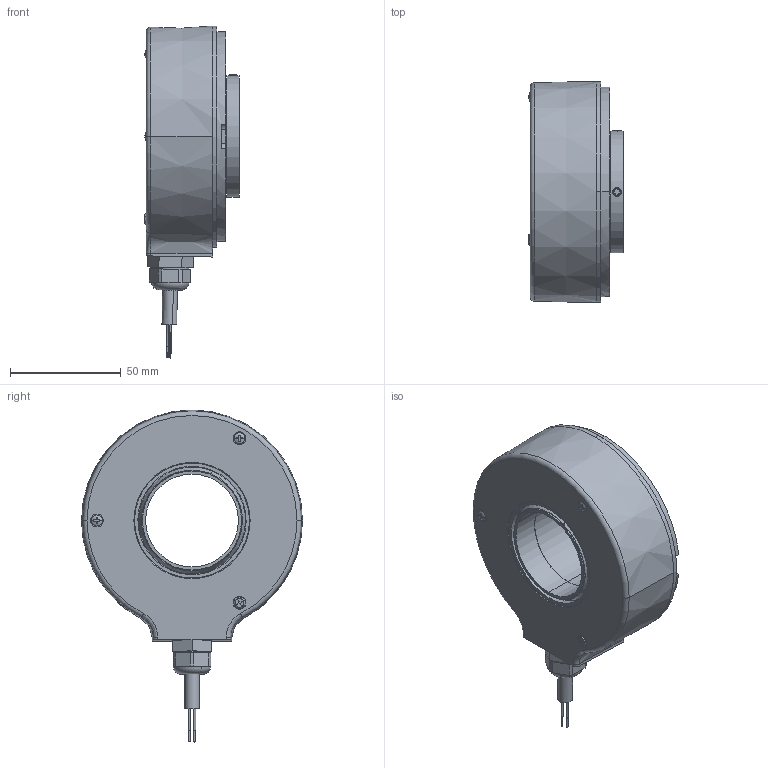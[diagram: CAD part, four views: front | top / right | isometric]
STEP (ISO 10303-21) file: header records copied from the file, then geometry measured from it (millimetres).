
FILE_DESCRIPTION (( 'STEP AP214' ), '1' );
FILE_NAME ('A020.11X1.XXXX.STEP', '2009-05-28T08:02:23', ( 'admin' ), ( 'Fritz Kübler GmbH' ), 'SwSTEP 2.0', 'SolidWorks 2009', '' );
FILE_SCHEMA (( 'AUTOMOTIVE_DESIGN' ));
Length unit declared in the file: millimetre
Products named in the file (1): A020.11X1.XXXX
Bounding box: 42.6 x 100 x 150.2 mm (x, y, z)
Volume: 136358.9 mm3; surface area: 84861 mm2
Topology: 15 solids, 15 shells, 566 faces, 1442 edges, 885 vertices
Faces by surface type: cylinder 192, plane 169, cone 105, sphere 52, torus 44, bspline 4
Entity records: 24922 total; most frequent: CARTESIAN_POINT 5325, DIRECTION 2931, ORIENTED_EDGE 2576, EDGE_CURVE 1288, AXIS2_PLACEMENT_3D 1212, VERTEX_POINT 813, EDGE_LOOP 705, CIRCLE 649
